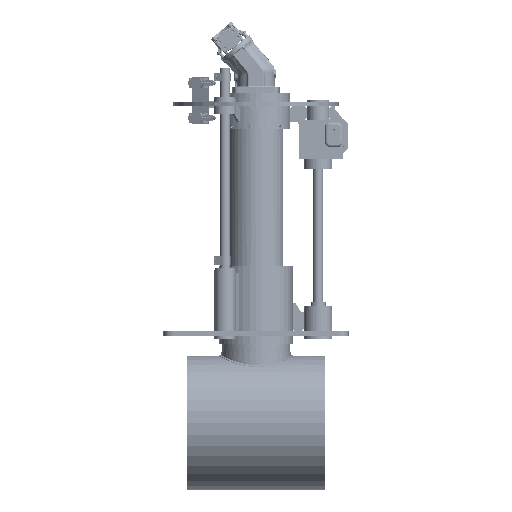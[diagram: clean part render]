
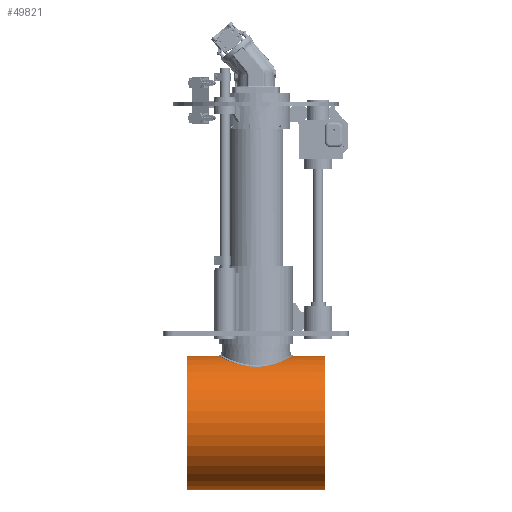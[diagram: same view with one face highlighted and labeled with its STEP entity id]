
A CAD part, front view. The second image highlights one B-rep face of the part: STEP entity #49821.
In plain terms, the highlighted cylindrical face has radius 270 mm (diameter 540 mm), a full revolution.
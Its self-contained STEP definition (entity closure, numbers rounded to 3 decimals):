
#2425=LINE('',#84503,#4895);
#4895=VECTOR('',#64609,270.);
#6470=CYLINDRICAL_SURFACE('',#54322,270.);
#7472=FACE_BOUND('',#12300,.T.);
#9011=FACE_OUTER_BOUND('',#12299,.T.);
#12299=EDGE_LOOP('',(#37402,#37403,#37404,#37405));
#12300=EDGE_LOOP('',(#37406,#37407));
#14369=B_SPLINE_CURVE_WITH_KNOTS('',3,(#84368,#84369,#84370,#84371,#84372,
#84373,#84374,#84375,#84376,#84377,#84378,#84379,#84380,#84381,#84382,#84383,
#84384,#84385,#84386,#84387,#84388,#84389,#84390,#84391,#84392,#84393,#84394,
#84395,#84396,#84397,#84398,#84399,#84400,#84401,#84402,#84403,#84404,#84405,
#84406),.UNSPECIFIED.,.F.,.F.,(4,2,2,2,2,2,2,2,2,3,2,2,2,2,2,2,2,2,4),(69.088,
71.961,74.833,77.706,80.578,83.463,
86.348,89.233,90.675,92.118,93.56,
95.003,97.888,100.773,103.658,106.53,
109.402,112.275,115.147),.UNSPECIFIED.);
#14370=B_SPLINE_CURVE_WITH_KNOTS('',3,(#84407,#84408,#84409,#84410,#84411,
#84412,#84413,#84414,#84415,#84416,#84417,#84418,#84419,#84420,#84421,#84422,
#84423,#84424,#84425,#84426,#84427,#84428,#84429,#84430,#84431,#84432,#84433,
#84434,#84435,#84436,#84437,#84438,#84439,#84440,#84441,#84442,#84443,#84444),
 .UNSPECIFIED.,.F.,.F.,(4,2,2,2,2,2,2,2,2,2,2,2,2,2,2,2,2,2,4),(23.029,
25.902,28.774,31.647,34.519,37.404,
40.289,43.174,44.617,46.059,47.501,
48.944,51.829,54.714,57.599,60.471,
63.344,66.216,69.088),.UNSPECIFIED.);
#16875=CIRCLE('',#54315,270.);
#16877=CIRCLE('',#54318,270.);
#21125=VERTEX_POINT('',#84365);
#21126=VERTEX_POINT('',#84367);
#21127=VERTEX_POINT('',#84489);
#21129=VERTEX_POINT('',#84494);
#26913=EDGE_CURVE('',#21126,#21125,#14369,.T.);
#26914=EDGE_CURVE('',#21125,#21126,#14370,.T.);
#26916=EDGE_CURVE('',#21127,#21127,#16875,.T.);
#26918=EDGE_CURVE('',#21129,#21129,#16877,.T.);
#26922=EDGE_CURVE('',#21127,#21129,#2425,.T.);
#37402=ORIENTED_EDGE('',*,*,#26916,.T.);
#37403=ORIENTED_EDGE('',*,*,#26922,.T.);
#37404=ORIENTED_EDGE('',*,*,#26918,.T.);
#37405=ORIENTED_EDGE('',*,*,#26922,.F.);
#37406=ORIENTED_EDGE('',*,*,#26914,.T.);
#37407=ORIENTED_EDGE('',*,*,#26913,.T.);
#49821=ADVANCED_FACE('',(#9011,#7472),#6470,.T.);
#54315=AXIS2_PLACEMENT_3D('',#84490,#64591,#64592);
#54318=AXIS2_PLACEMENT_3D('',#84495,#64597,#64598);
#54322=AXIS2_PLACEMENT_3D('',#84502,#64607,#64608);
#64591=DIRECTION('center_axis',(-1.,0.,
0.));
#64592=DIRECTION('ref_axis',(0.,-1.,0.));
#64597=DIRECTION('center_axis',(1.,0.,
0.));
#64598=DIRECTION('ref_axis',(0.,-1.,0.));
#64607=DIRECTION('center_axis',(1.,0.,
0.));
#64608=DIRECTION('ref_axis',(0.,-1.,0.));
#64609=DIRECTION('',(-1.,0.,0.));
#84365=CARTESIAN_POINT('',(-149.,0.038,-78.));
#84367=CARTESIAN_POINT('',(149.,-0.038,-78.));
#84368=CARTESIAN_POINT('Ctrl Pts',(149.,-0.038,
-78.));
#84369=CARTESIAN_POINT('Ctrl Pts',(148.998,-9.613,-78.));
#84370=CARTESIAN_POINT('Ctrl Pts',(148.057,-19.449,-78.521));
#84371=CARTESIAN_POINT('Ctrl Pts',(144.177,-38.887,-80.631));
#84372=CARTESIAN_POINT('Ctrl Pts',(141.238,-48.489,-82.218));
#84373=CARTESIAN_POINT('Ctrl Pts',(133.561,-66.79,-86.215));
#84374=CARTESIAN_POINT('Ctrl Pts',(128.816,-75.508,-88.626));
#84375=CARTESIAN_POINT('Ctrl Pts',(117.946,-91.563,-93.849));
#84376=CARTESIAN_POINT('Ctrl Pts',(111.819,-98.902,-96.656));
#84377=CARTESIAN_POINT('Ctrl Pts',(98.817,-111.898,-102.166));
#84378=CARTESIAN_POINT('Ctrl Pts',(91.461,-118.024,-105.074));
#84379=CARTESIAN_POINT('Ctrl Pts',(75.405,-128.876,-110.654));
#84380=CARTESIAN_POINT('Ctrl Pts',(66.704,-133.602,-113.32));
#84381=CARTESIAN_POINT('Ctrl Pts',(48.44,-141.254,-117.846));
#84382=CARTESIAN_POINT('Ctrl Pts',(38.859,-144.184,-119.704));
#84383=CARTESIAN_POINT('Ctrl Pts',(24.286,-147.091,-121.577));
#84384=CARTESIAN_POINT('Ctrl Pts',(19.395,-147.814,-122.051));
#84385=CARTESIAN_POINT('Ctrl Pts',(9.638,-148.769,-122.68));
#84386=CARTESIAN_POINT('Ctrl Pts',(4.77,-149.001,-122.836));
#84387=CARTESIAN_POINT('Ctrl Pts',(-0.038,-149.,
-122.836));
#84388=CARTESIAN_POINT('Ctrl Pts',(-4.846,-148.999,
-122.836));
#84389=CARTESIAN_POINT('Ctrl Pts',(-9.713,-148.764,
-122.68));
#84390=CARTESIAN_POINT('Ctrl Pts',(-19.47,-147.804,-122.051));
#84391=CARTESIAN_POINT('Ctrl Pts',(-24.361,-147.079,-121.577));
#84392=CARTESIAN_POINT('Ctrl Pts',(-38.932,-144.165,
-119.704));
#84393=CARTESIAN_POINT('Ctrl Pts',(-48.512,-141.229,
-117.846));
#84394=CARTESIAN_POINT('Ctrl Pts',(-66.772,-133.569,
-113.32));
#84395=CARTESIAN_POINT('Ctrl Pts',(-75.47,-128.838,
-110.654));
#84396=CARTESIAN_POINT('Ctrl Pts',(-91.521,-117.978,
-105.074));
#84397=CARTESIAN_POINT('Ctrl Pts',(-98.874,-111.847,
-102.166));
#84398=CARTESIAN_POINT('Ctrl Pts',(-111.869,-98.845,
-96.656));
#84399=CARTESIAN_POINT('Ctrl Pts',(-117.992,-91.503,
-93.849));
#84400=CARTESIAN_POINT('Ctrl Pts',(-128.854,-75.442,
-88.626));
#84401=CARTESIAN_POINT('Ctrl Pts',(-133.595,-66.722,-86.215));
#84402=CARTESIAN_POINT('Ctrl Pts',(-141.263,-48.417,
-82.218));
#84403=CARTESIAN_POINT('Ctrl Pts',(-144.197,-38.814,
-80.631));
#84404=CARTESIAN_POINT('Ctrl Pts',(-148.067,-19.374,
-78.521));
#84405=CARTESIAN_POINT('Ctrl Pts',(-149.002,-9.537,
-78.));
#84406=CARTESIAN_POINT('Ctrl Pts',(-149.,0.038,
-78.));
#84407=CARTESIAN_POINT('Ctrl Pts',(-149.,0.038,
-78.));
#84408=CARTESIAN_POINT('Ctrl Pts',(-148.998,9.613,-78.));
#84409=CARTESIAN_POINT('Ctrl Pts',(-148.057,19.449,-78.521));
#84410=CARTESIAN_POINT('Ctrl Pts',(-144.177,38.887,-80.631));
#84411=CARTESIAN_POINT('Ctrl Pts',(-141.238,48.489,-82.218));
#84412=CARTESIAN_POINT('Ctrl Pts',(-133.561,66.79,-86.215));
#84413=CARTESIAN_POINT('Ctrl Pts',(-128.816,75.508,-88.626));
#84414=CARTESIAN_POINT('Ctrl Pts',(-117.946,91.563,-93.849));
#84415=CARTESIAN_POINT('Ctrl Pts',(-111.819,98.902,-96.656));
#84416=CARTESIAN_POINT('Ctrl Pts',(-98.817,111.898,-102.166));
#84417=CARTESIAN_POINT('Ctrl Pts',(-91.461,118.024,-105.074));
#84418=CARTESIAN_POINT('Ctrl Pts',(-75.405,128.876,-110.654));
#84419=CARTESIAN_POINT('Ctrl Pts',(-66.704,133.602,-113.32));
#84420=CARTESIAN_POINT('Ctrl Pts',(-48.44,141.254,-117.846));
#84421=CARTESIAN_POINT('Ctrl Pts',(-38.859,144.184,-119.704));
#84422=CARTESIAN_POINT('Ctrl Pts',(-24.286,147.091,-121.577));
#84423=CARTESIAN_POINT('Ctrl Pts',(-19.395,147.814,-122.051));
#84424=CARTESIAN_POINT('Ctrl Pts',(-9.638,148.769,-122.68));
#84425=CARTESIAN_POINT('Ctrl Pts',(-4.77,149.001,-122.836));
#84426=CARTESIAN_POINT('Ctrl Pts',(4.846,148.999,-122.836));
#84427=CARTESIAN_POINT('Ctrl Pts',(9.713,148.764,-122.68));
#84428=CARTESIAN_POINT('Ctrl Pts',(19.47,147.804,-122.051));
#84429=CARTESIAN_POINT('Ctrl Pts',(24.361,147.079,-121.577));
#84430=CARTESIAN_POINT('Ctrl Pts',(38.932,144.165,-119.704));
#84431=CARTESIAN_POINT('Ctrl Pts',(48.512,141.229,-117.846));
#84432=CARTESIAN_POINT('Ctrl Pts',(66.772,133.569,-113.32));
#84433=CARTESIAN_POINT('Ctrl Pts',(75.47,128.838,-110.654));
#84434=CARTESIAN_POINT('Ctrl Pts',(91.521,117.978,-105.074));
#84435=CARTESIAN_POINT('Ctrl Pts',(98.874,111.847,-102.166));
#84436=CARTESIAN_POINT('Ctrl Pts',(111.869,98.845,-96.656));
#84437=CARTESIAN_POINT('Ctrl Pts',(117.992,91.503,-93.849));
#84438=CARTESIAN_POINT('Ctrl Pts',(128.854,75.442,-88.626));
#84439=CARTESIAN_POINT('Ctrl Pts',(133.595,66.722,-86.215));
#84440=CARTESIAN_POINT('Ctrl Pts',(141.263,48.417,-82.218));
#84441=CARTESIAN_POINT('Ctrl Pts',(144.197,38.814,-80.631));
#84442=CARTESIAN_POINT('Ctrl Pts',(148.067,19.374,-78.521));
#84443=CARTESIAN_POINT('Ctrl Pts',(149.002,9.537,-78.));
#84444=CARTESIAN_POINT('Ctrl Pts',(149.,-0.038,
-78.));
#84489=CARTESIAN_POINT('',(277.568,269.93,-348.));
#84490=CARTESIAN_POINT('Origin',(277.5,-0.07,-348.));
#84494=CARTESIAN_POINT('',(-277.432,270.07,-348.));
#84495=CARTESIAN_POINT('Origin',(-277.5,0.07,-348.));
#84502=CARTESIAN_POINT('Origin',(0.,0.,
-348.));
#84503=CARTESIAN_POINT('',(0.068,270.,-348.));
